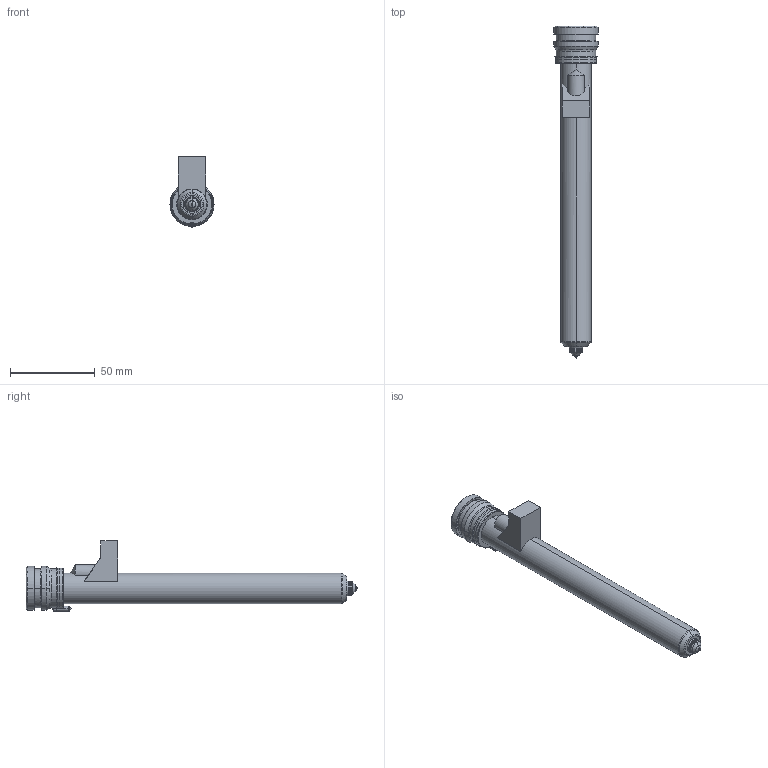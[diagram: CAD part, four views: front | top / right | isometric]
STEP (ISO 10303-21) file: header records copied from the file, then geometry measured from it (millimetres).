
FILE_DESCRIPTION((''),'2;1');
FILE_NAME('MPN-08-24-VX8-176-M','2026-02-05T13:31:49',('UPTIO'),('Thermoplay S.p.A.'),'CREO PARAMETRIC BY PTC INC, 2023494','CREO PARAMETRIC BY PTC INC, 2023494','');
FILE_SCHEMA(('CONFIG_CONTROL_DESIGN','SHAPE_APPEARANCE_LAYERS_GROUPS'));
Length unit declared in the file: millimetre
Products named in the file (1): MPN-08-24-VX8-176-M
Bounding box: 26 x 195.5 x 41.5 mm (x, y, z)
Volume: 36394.9 mm3; surface area: 48885.4 mm2
Topology: 2 solids, 3 shells, 529 faces, 1372 edges, 842 vertices
Faces by surface type: cylinder 174, plane 143, bspline 77, torus 60, cone 60, sphere 9, extrusion 6
Entity records: 27365 total; most frequent: CARTESIAN_POINT 11844, ORIENTED_EDGE 2726, DIRECTION 2495, EDGE_CURVE 1363, AXIS2_PLACEMENT_3D 975, VERTEX_POINT 842, EDGE_LOOP 559, VECTOR 545
